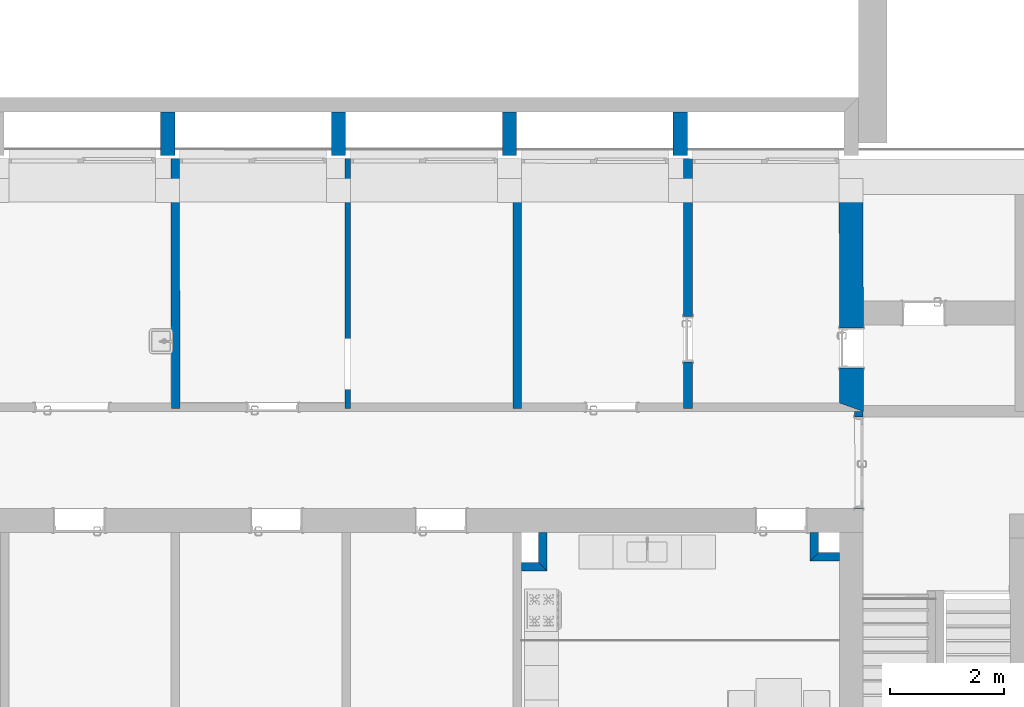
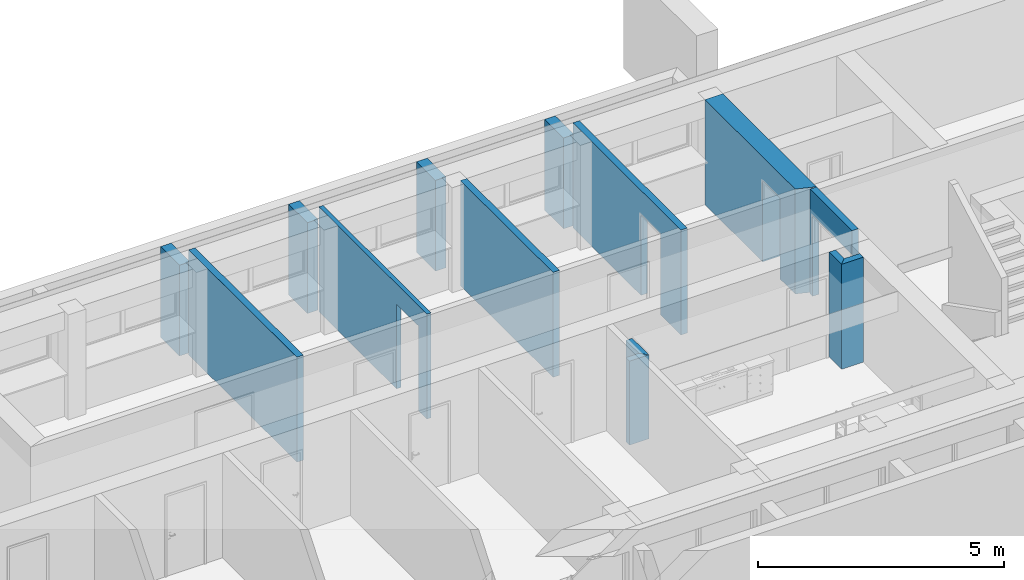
# One storey, part 9 of 127: 14 walls, 4 openings.
"""IFC2X3 building model written with IfcOpenShell, lengths in millimetres."""

import ifcopenshell
import ifcopenshell.guid

model = None  # the IFC model being written
_history = None  # IfcOwnerHistory: only IFC2X3 demands one
_inside = {}  # id of a spatial element -> (the spatial element, [elements in it])
_under = {}  # id of a project, library or spatial element -> (it, [spatial elements below it])
_declared = {}  # id of a project -> (the project, [libraries it declares])
_typed = {}  # id of a type object -> (the type object, [elements of that type])
_made_of = {}  # id of a material, layer set ... -> (it, [elements and type objects made of it])


def new_model(schema):
    """Start an empty IFC model of exactly this schema.

    Asked for "IFC4X3", IfcOpenShell would pick the latest addendum, in which some entities
    have other attributes; the version numbers below select the first issue.
    IFC2X3 requires an IfcOwnerHistory on every rooted entity: one is made here for all.
    """
    global model, _history
    if schema == "IFC4X3":
        model = ifcopenshell.file(schema_version=(4, 3, 0, 0))
    else:
        model = ifcopenshell.file(schema=schema)
    _inside.clear()
    _under.clear()
    _declared.clear()
    _typed.clear()
    _made_of.clear()
    _history = None
    if model.schema == "IFC2X3":
        org = make("IfcOrganization", Name="unknown")
        user = make(
            "IfcPersonAndOrganization",
            ThePerson=make("IfcPerson", FamilyName="unknown"),
            TheOrganization=org,
        )
        app = make(
            "IfcApplication",
            ApplicationDeveloper=org,
            Version="unknown",
            ApplicationFullName="unknown",
            ApplicationIdentifier="unknown",
        )
        _history = make(
            "IfcOwnerHistory",
            OwningUser=user,
            OwningApplication=app,
            ChangeAction="ADDED",
            CreationDate=0,
        )
    return model


def make(cls, **values):
    """One entity of the class cls with the attributes given. An attribute that is None is left unset."""
    return model.create_entity(
        cls, **{name: value for name, value in values.items() if value is not None}
    )


def entity(cls, *values):
    """Any entity or typed value of the class cls, its attributes in the order of the schema. None: left unset."""
    e = model.create_entity(cls)
    for i, value in enumerate(values):
        if value is not None:
            e[i] = value
    return e


def rooted(cls, **values):
    """An entity with a GlobalId (a new one), such as an element, a storey or a relation."""
    return make(cls, GlobalId=ifcopenshell.guid.new(), OwnerHistory=_history, **values)


def si_unit(unit_type, name, prefix=None):
    """IfcSIUnit, for example si_unit("LENGTHUNIT", "METRE", prefix="MILLI")."""
    return make("IfcSIUnit", UnitType=unit_type, Prefix=prefix, Name=name)


def converted_unit(unit_type, name, factor, base, dimensions=None, offset=None):
    """IfcConversionBasedUnit, such as the inch: factor (a typed value) times the base unit."""
    return make(
        "IfcConversionBasedUnit"
        if offset is None
        else "IfcConversionBasedUnitWithOffset",
        ConversionOffset=offset,
        Dimensions=None
        if dimensions is None
        else entity("IfcDimensionalExponents", *dimensions),
        UnitType=unit_type,
        Name=name,
        ConversionFactor=make(
            "IfcMeasureWithUnit", ValueComponent=factor, UnitComponent=base
        ),
    )


def derived_unit(unit_type, elements):
    """IfcDerivedUnit: a product of units, each with its exponent."""
    return make(
        "IfcDerivedUnit",
        Elements=[
            make("IfcDerivedUnitElement", Unit=unit, Exponent=power)
            for unit, power in elements
        ],
        UnitType=unit_type,
    )


def money_unit(currency):
    """IfcMonetaryUnit."""
    return make("IfcMonetaryUnit", Currency=currency)


def assignment(units):
    """IfcUnitAssignment: the units of a project."""
    return None if units is None else make("IfcUnitAssignment", Units=units)


def point(xyz):
    """IfcCartesianPoint."""
    return None if xyz is None else make("IfcCartesianPoint", Coordinates=xyz)


def direction(xyz):
    """IfcDirection."""
    return None if xyz is None else make("IfcDirection", DirectionRatios=xyz)


def frame(location, z_axis=None, x_axis=None):
    """IfcAxis2Placement3D, a coordinate frame: its origin and axes. An axis left out is left unset."""
    return make(
        "IfcAxis2Placement3D",
        Location=point(location),
        Axis=direction(z_axis),
        RefDirection=direction(x_axis),
    )


def frame_2d(location, x_axis=None):
    """IfcAxis2Placement2D, a coordinate frame in the plane: its origin and x axis."""
    return make(
        "IfcAxis2Placement2D", Location=point(location), RefDirection=direction(x_axis)
    )


def origin_with_axes():
    """The frame at (0, 0, 0) with the z axis (0, 0, 1) and the x axis (1, 0, 0) written out."""
    return frame((0.0, 0.0, 0.0), z_axis=(0.0, 0.0, 1.0), x_axis=(1.0, 0.0, 0.0))


def origin_2d_with_axis():
    """The frame at (0, 0) in the plane with the x axis (1, 0) written out."""
    return frame_2d((0.0, 0.0), x_axis=(1.0, 0.0))


def place(relative_to, where):
    """IfcLocalPlacement: puts the frame where relative to a parent placement (None: the world)."""
    return make(
        "IfcLocalPlacement", PlacementRelTo=relative_to, RelativePlacement=where
    )


def context(
    kind, dimensions, precision=None, world=None, true_north=None, identifier=None
):
    """IfcGeometricRepresentationContext, for example the 3D "Model" context."""
    return make(
        "IfcGeometricRepresentationContext",
        ContextIdentifier=identifier,
        ContextType=kind,
        CoordinateSpaceDimension=dimensions,
        Precision=precision,
        WorldCoordinateSystem=world,
        TrueNorth=true_north,
    )


def subcontext(parent, identifier, kind, view, scale=None):
    """IfcGeometricRepresentationSubContext, for example "Body" below "Model"."""
    return make(
        "IfcGeometricRepresentationSubContext",
        ContextIdentifier=identifier,
        ContextType=kind,
        ParentContext=parent,
        TargetScale=scale,
        TargetView=view,
    )


def project(units=None, contexts=None):
    """IfcProject with its units and contexts."""
    return rooted(
        "IfcProject",
        Name="project",
        RepresentationContexts=contexts,
        UnitsInContext=assignment(units),
    )


def spatial(cls, under=None, at=None, **own):
    """A site, building, storey or space (cls), placed at a placement, below another one or the project."""
    s = rooted(cls, ObjectPlacement=at, **own)
    if under is not None:
        _under.setdefault(under.id(), (under, []))[1].append(s)
    return s


def polyline(points):
    """IfcPolyline through the points."""
    return make("IfcPolyline", Points=[point(p) for p in points])


def profile(cls, at=None, kind="AREA", **sizes):
    """A parametric profile (cls). Its sizes go by their IFC names, for example OverallWidth=200.0."""
    return make(cls, ProfileType=kind, Position=at, **sizes)


def rectangle(**sizes):
    """IfcRectangleProfileDef."""
    return profile("IfcRectangleProfileDef", **sizes)


def outline(outer, holes=None, kind="AREA"):
    """IfcArbitraryClosedProfileDef: a profile drawn as a closed curve; with holes, ...WithVoids."""
    if holes is None:
        return make("IfcArbitraryClosedProfileDef", ProfileType=kind, OuterCurve=outer)
    return make(
        "IfcArbitraryProfileDefWithVoids",
        ProfileType=kind,
        OuterCurve=outer,
        InnerCurves=holes,
    )


def extrude(swept, where, along, depth):
    """IfcExtrudedAreaSolid: the profile swept, set in the frame where, extruded along a direction by depth."""
    return make(
        "IfcExtrudedAreaSolid",
        SweptArea=swept,
        Position=where,
        ExtrudedDirection=direction(along),
        Depth=depth,
    )


def shape(context_of_items, identifier, shape_type, items):
    """IfcShapeRepresentation: the items that make up one representation, for example the "Body"."""
    return make(
        "IfcShapeRepresentation",
        ContextOfItems=context_of_items,
        RepresentationIdentifier=identifier,
        RepresentationType=shape_type,
        Items=items,
    )


def material(Name=None, Category=None):
    """IfcMaterial."""
    return make("IfcMaterial", Name=Name, Category=Category)


def layer(
    of_material, thickness, ventilated=None, Name=None, Category=None, Priority=None
):
    """IfcMaterialLayer: one layer of a wall or slab, of a material (None: an air gap)."""
    return make(
        "IfcMaterialLayer",
        Material=of_material,
        LayerThickness=thickness,
        IsVentilated=ventilated,
        Name=Name,
        Category=Category,
        Priority=Priority,
    )


def layer_set(layers, Name=None):
    """IfcMaterialLayerSet."""
    return make("IfcMaterialLayerSet", MaterialLayers=layers, LayerSetName=Name)


def layer_usage(for_layer_set, set_direction, sense, offset, extent=None):
    """IfcMaterialLayerSetUsage: how a layer set lies in its element."""
    return make(
        "IfcMaterialLayerSetUsage",
        ForLayerSet=for_layer_set,
        LayerSetDirection=set_direction,
        DirectionSense=sense,
        OffsetFromReferenceLine=offset,
        ReferenceExtent=extent,
    )


def made_of(thing, what):
    """Note that an element or type object is made of a material, layer set ...; save() writes the relation."""
    if what is not None:
        _made_of.setdefault(what.id(), (what, []))[1].append(thing)
    return thing


def type_object(cls, material=None, **own):
    """A type object (cls), such as IfcWallType, which elements share."""
    return made_of(rooted(cls, **own), material)


def element(
    cls,
    number,
    at=None,
    inside=None,
    cuts=None,
    type_object=None,
    material=None,
    context=None,
    identifier="Body",
    shape_type=None,
    held_by="IfcProductDefinitionShape",
    body=None,
    shapes=None,
    **own,
):
    """One element of the class cls, such as IfcWall. Its Tag is "e" and its number.

    at: its placement. inside: the storey or other place that contains it. cuts: it is an
    opening in that element (IfcRelVoidsElement). A single representation is given by context,
    identifier, shape_type and body (its items); several are given by shapes. held_by: the class
    of the entity that holds the representations. save() writes the other relations.
    """
    e = rooted(cls, Tag="e%d" % number, ObjectPlacement=at, **own)
    if body is not None:
        shapes = [shape(context, identifier, shape_type, body)]
    if shapes is not None:
        e.Representation = make(held_by, Representations=shapes)
    if inside is not None:
        _inside.setdefault(inside.id(), (inside, []))[1].append(e)
    if cuts is not None:
        rooted(
            "IfcRelVoidsElement", RelatingBuildingElement=cuts, RelatedOpeningElement=e
        )
    if type_object is not None:
        _typed.setdefault(type_object.id(), (type_object, []))[1].append(e)
    return made_of(e, material)


def aggregate(whole, parts):
    """IfcRelAggregates: a whole, such as a stair, and the parts it consists of."""
    return rooted("IfcRelAggregates", RelatingObject=whole, RelatedObjects=parts)


def save(model, path):
    """Write the relations noted so far, then the file.

    IfcRelAggregates (storeys below a building ...), IfcRelContainedInSpatialStructure (elements
    in a storey), IfcRelDefinesByType, IfcRelAssociatesMaterial and IfcRelDeclares: one each for
    every whole, place, type object, material and project.
    """
    for whole, parts in _under.values():
        aggregate(whole, parts)
    for where, things in _inside.values():
        rooted(
            "IfcRelContainedInSpatialStructure",
            RelatedElements=things,
            RelatingStructure=where,
        )
    for kind, things in _typed.values():
        rooted("IfcRelDefinesByType", RelatedObjects=things, RelatingType=kind)
    for what, things in _made_of.values():
        rooted("IfcRelAssociatesMaterial", RelatedObjects=things, RelatingMaterial=what)
    for by, libraries in _declared.values():
        rooted("IfcRelDeclares", RelatingContext=by, RelatedDefinitions=libraries)
    model.write(path)


model = new_model("IFC2X3")

# Units and contexts
model_context = context("Model", 3, precision=1e-05, world=origin_with_axes(), true_north=direction((0.0, 1.0)))
body_context = subcontext(model_context, "Body", "Model", "MODEL_VIEW")
ifc_project = project(units=[si_unit("LENGTHUNIT", "METRE", prefix="MILLI"), si_unit("AREAUNIT", "SQUARE_METRE"), si_unit("VOLUMEUNIT", "CUBIC_METRE"), converted_unit("PLANEANGLEUNIT", "DEGREE", entity("IfcPlaneAngleMeasure", 0.0174532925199), si_unit("PLANEANGLEUNIT", "RADIAN"), dimensions=[0, 0, 0, 0, 0, 0, 0]), si_unit("SOLIDANGLEUNIT", "STERADIAN"), money_unit("EUR"), converted_unit("TIMEUNIT", "Year", entity("IfcTimeMeasure", 31556926.0), si_unit("TIMEUNIT", "SECOND"), dimensions=[0, 0, 1, 0, 0, 0, 0]), si_unit("MASSUNIT", "GRAM", prefix="KILO"), si_unit("THERMODYNAMICTEMPERATUREUNIT", "DEGREE_CELSIUS"), si_unit("LUMINOUSINTENSITYUNIT", "LUMEN"), si_unit("ENERGYUNIT", "JOULE", prefix="MEGA"), derived_unit("THERMALCONDUCTANCEUNIT", [(si_unit("POWERUNIT", "WATT"), 1), (si_unit("LENGTHUNIT", "METRE"), -1), (si_unit("THERMODYNAMICTEMPERATUREUNIT", "KELVIN"), -1)]), derived_unit("SPECIFICHEATCAPACITYUNIT", [(si_unit("ENERGYUNIT", "JOULE"), 1), (si_unit("MASSUNIT", "GRAM", prefix="KILO"), -1), (si_unit("THERMODYNAMICTEMPERATUREUNIT", "KELVIN"), -1)]), derived_unit("MASSDENSITYUNIT", [(si_unit("MASSUNIT", "GRAM", prefix="KILO"), 1), (si_unit("VOLUMEUNIT", "CUBIC_METRE"), -1)])], contexts=[model_context])

# Site, building, storey
site_placement = place(None, origin_with_axes())
site = spatial("IfcSite", under=ifc_project, at=site_placement, Name="Site", CompositionType="ELEMENT")
building_placement = place(site_placement, origin_with_axes())
building = spatial("IfcBuilding", under=site, at=building_placement, Name="Building", CompositionType="ELEMENT")
storey_placement = place(building_placement, origin_with_axes())
storey = spatial("IfcBuildingStorey", under=building, at=storey_placement, Name="1 KORRUS", CompositionType="ELEMENT", Elevation=0.0)

# Walls
ifc_material_1 = material(Name="Kivi - Ol.Olev Konstruktsioon")
ifc_layer_1 = layer(ifc_material_1, 250.0, ventilated="UNKNOWN")
ifc_layer_set_1 = layer_set([ifc_layer_1], Name="Ol.olve tugimüür 250")
ifc_layer_usage_1 = layer_usage(ifc_layer_set_1, "AXIS2", "POSITIVE", -125.0)
wall_type_1 = type_object("IfcWallType", Name="SW - 028", PredefinedType="NOTDEFINED")
wall_1_placement = place(storey_placement, frame((54944.5004847, 47302.325893, 0.0), z_axis=(0.0, 0.0, 1.0), x_axis=(0.000248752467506, 0.999999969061, 0.0)))
element("IfcWallStandardCase", 1, at=wall_1_placement, inside=storey, type_object=wall_type_1, material=ifc_layer_usage_1, Name="Ol.olve tugimüür 250", context=body_context, shape_type="SweptSolid", body=[
    extrude(outline(polyline([(0.0, -125.0), (762.935156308, -125.0), (762.87296819, 125.0), (0.0, 125.0), (0.0, -125.0)])), origin_with_axes(), (0.0, 0.0, 1.0), 2250.0),
])
ifc_layer_usage_2 = layer_usage(ifc_layer_set_1, "AXIS2", "POSITIVE", -125.0)
wall_2_placement = place(storey_placement, frame((51944.5003919, 47302.325893, 0.0), z_axis=(0.0, 0.0, 1.0), x_axis=(0.000248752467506, 0.999999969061, 0.0)))
element("IfcWallStandardCase", 2, at=wall_2_placement, inside=storey, type_object=wall_type_1, material=ifc_layer_usage_2, Name="Ol.olve tugimüür 250", context=body_context, shape_type="SweptSolid", body=[
    extrude(outline(polyline([(0.0, -125.0), (762.935156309, -125.0), (762.87296819, 125.0), (0.0, 125.0), (0.0, -125.0)])), origin_with_axes(), (0.0, 0.0, 1.0), 2250.0),
])
ifc_layer_usage_3 = layer_usage(ifc_layer_set_1, "AXIS2", "POSITIVE", -125.0)
wall_3_placement = place(storey_placement, frame((57944.5005776, 47302.325893, 0.0), z_axis=(0.0, 0.0, 1.0), x_axis=(0.000248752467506, 0.999999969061, 0.0)))
element("IfcWallStandardCase", 3, at=wall_3_placement, inside=storey, type_object=wall_type_1, material=ifc_layer_usage_3, Name="Ol.olve tugimüür 250", context=body_context, shape_type="SweptSolid", body=[
    extrude(outline(polyline([(0.0, -125.0), (762.935156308, -125.0), (762.872968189, 125.0), (0.0, 125.0), (0.0, -125.0)])), origin_with_axes(), (0.0, 0.0, 1.0), 2250.0),
])
ifc_layer_usage_4 = layer_usage(ifc_layer_set_1, "AXIS2", "POSITIVE", -125.0)
wall_4_placement = place(storey_placement, frame((48944.5002991, 47302.325893, 0.0), z_axis=(0.0, 0.0, 1.0), x_axis=(0.000248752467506, 0.999999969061, 0.0)))
element("IfcWallStandardCase", 4, at=wall_4_placement, inside=storey, type_object=wall_type_1, material=ifc_layer_usage_4, Name="Ol.olve tugimüür 250", context=body_context, shape_type="SweptSolid", body=[
    extrude(outline(polyline([(0.0, -125.0), (762.935156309, -125.0), (762.87296819, 125.0), (9.09494701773e-10, 125.0), (0.0, -125.0)])), origin_with_axes(), (0.0, 0.0, 1.0), 2250.0),
])

# Wall, opening
ifc_material_2 = material(Name="Kivi -Ol.Olev Konstruktsioon")
ifc_layer_2 = layer(ifc_material_2, 100.0, ventilated="UNKNOWN")
ifc_layer_set_2 = layer_set([ifc_layer_2], Name="ol.olev ss 100")
ifc_layer_usage_5 = layer_usage(ifc_layer_set_2, "AXIS2", "NEGATIVE", 0.0)
wall_type_2 = type_object("IfcWallType", Name="SW - 036", PredefinedType="NOTDEFINED")
wall_5_placement = place(storey_placement, frame((52154.3292711, 47243.6716363, 0.0), z_axis=(0.0, 0.0, 1.0), x_axis=(0.0, -1.0, 0.0)))
wall_5 = element("IfcWallStandardCase", 5, at=wall_5_placement, inside=storey, type_object=wall_type_2, material=ifc_layer_usage_5, Name="ol.olev ss 100", context=body_context, shape_type="SweptSolid", body=[
    extrude(outline(polyline([(0.0, -100.0), (4387.15956942, -100.0), (4387.15956942, 0.0), (0.0, 0.0), (0.0, -100.0)])), origin_with_axes(), (0.0, 0.0, 1.0), 2600.0),
])
opening_1_placement = place(wall_5_placement, frame((3603.31585133, 0.0, 0.0), z_axis=(0.0, 0.0, 1.0), x_axis=(1.0, 0.0, 0.0)))
element("IfcOpeningElement", 6, at=opening_1_placement, cuts=wall_5, Name="Background;  Objekti nimi: Rectangular Door Opening 22", context=body_context, shape_type="SweptSolid", body=[
    extrude(rectangle(XDim=900.0, YDim=2100.0, at=origin_2d_with_axis()), frame((0.0, -100.0, 1050.0), z_axis=(0.0, -1.0, 0.0), x_axis=(1.0, 0.0, 0.0)), (0.0, 0.0, -1.0), 300.0),
])

# Wall
ifc_layer_3 = layer(ifc_material_2, 150.0, ventilated="UNKNOWN")
ifc_layer_set_3 = layer_set([ifc_layer_3], Name="ol.olev ss 150")
ifc_layer_usage_6 = layer_usage(ifc_layer_set_3, "AXIS2", "NEGATIVE", 0.0)
wall_6_placement = place(storey_placement, frame((49153.3880206, 47244.4520916, 0.0), z_axis=(0.0, 0.0, 1.0), x_axis=(0.0012176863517, -0.99999925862, 0.0)))
element("IfcWallStandardCase", 7, at=wall_6_placement, inside=storey, type_object=wall_type_2, material=ifc_layer_usage_6, Name="ol.olev ss 150", context=body_context, shape_type="SweptSolid", body=[
    extrude(outline(polyline([(0.0, -150.0), (4387.94327778, -150.0), (4387.94327778, 0.0), (0.0, 0.0), (0.0, -150.0)])), origin_with_axes(), (0.0, 0.0, 1.0), 2600.0),
])

# Wall, opening
ifc_layer_usage_7 = layer_usage(ifc_layer_set_3, "AXIS2", "NEGATIVE", 0.0)
wall_7_placement = place(storey_placement, frame((58154.3292711, 47242.1726063, 0.0), z_axis=(0.0, 0.0, 1.0), x_axis=(0.0, -1.0, 0.0)))
wall_7 = element("IfcWallStandardCase", 8, at=wall_7_placement, inside=storey, type_object=wall_type_2, material=ifc_layer_usage_7, Name="ol.olev ss 150", context=body_context, shape_type="SweptSolid", body=[
    extrude(outline(polyline([(0.0, -150.0), (4385.66053938, -150.0), (4385.66053938, 0.0), (0.0, 0.0), (0.0, -150.0)])), origin_with_axes(), (0.0, 0.0, 1.0), 2600.0),
])
opening_2_placement = place(wall_7_placement, frame((3165.65622186, 0.0, 0.0), z_axis=(0.0, 0.0, 1.0), x_axis=(1.0, 0.0, 0.0)))
element("IfcOpeningElement", 9, at=opening_2_placement, cuts=wall_7, Name="Siseuks * Door 22", context=body_context, shape_type="SweptSolid", body=[
    extrude(rectangle(XDim=799.999999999, YDim=2000.0, at=origin_2d_with_axis()), frame((0.0, -150.0, 1000.0), z_axis=(0.0, -1.0, 0.0), x_axis=(1.0, 0.0, 0.0)), (0.0, 0.0, -1.0), 450.0),
    extrude(rectangle(XDim=874.0, YDim=2037.0, at=origin_2d_with_axis()), frame((0.0, -150.0, 1018.5), z_axis=(0.0, -1.0, 0.0), x_axis=(1.0, 0.0, 0.0)), (0.0, 0.0, 1.0), 150.0),
    extrude(rectangle(XDim=874.0, YDim=2037.0, at=origin_2d_with_axis()), frame((0.0, 0.0, 1018.5), z_axis=(0.0, 1.0, 0.0), x_axis=(1.0, 0.0, 0.0)), (0.0, 0.0, 1.0), 150.0),
])

# Wall
ifc_layer_usage_8 = layer_usage(ifc_layer_set_3, "AXIS2", "NEGATIVE", 0.0)
wall_8_placement = place(storey_placement, frame((55154.5211682, 47242.9078439, 0.0), z_axis=(0.0, 0.0, 1.0), x_axis=(0.00120319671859, -0.999999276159, 0.0)))
element("IfcWallStandardCase", 10, at=wall_8_placement, inside=storey, type_object=wall_type_2, material=ifc_layer_usage_8, Name="ol.olev ss 150", context=body_context, shape_type="SweptSolid", body=[
    extrude(outline(polyline([(629.782871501, -150.0), (4386.41375586, -150.0), (4386.41375586, -1.13686837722e-10), (630.000664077, -1.13686837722e-10), (629.782871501, -150.0)])), origin_with_axes(), (0.0, 0.0, 1.0), 2600.0),
])

# Wall, opening
ifc_layer_4 = layer(ifc_material_2, 420.0, ventilated="UNKNOWN")
ifc_layer_set_4 = layer_set([ifc_layer_4], Name="ol.olev ss 420")
ifc_layer_usage_9 = layer_usage(ifc_layer_set_4, "AXIS2", "POSITIVE", 0.0)
wall_9_placement = place(storey_placement, frame((61158.906204, 42953.8718916, 0.0), z_axis=(0.0, 0.0, 1.0), x_axis=(-0.00143580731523, 0.999998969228, 0.0)))
wall_9 = element("IfcWallStandardCase", 11, at=wall_9_placement, inside=storey, type_object=wall_type_2, material=ifc_layer_usage_9, Name="ol.olev ss 420", context=body_context, shape_type="SweptSolid", body=[
    extrude(outline(polyline([(-150.000154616, 0.0), (3657.54740359, 0.0), (3658.25491958, 420.0), (0.603039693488, 420.0), (-150.000154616, 0.0)])), origin_with_axes(), (0.0, 0.0, 1.0), 2600.0),
])
opening_3_placement = place(wall_9_placement, frame((964.921937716, 1.13686837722e-10, 0.0), z_axis=(0.0, 0.0, 1.0), x_axis=(1.0, 0.0, 0.0)))
element("IfcOpeningElement", 12, at=opening_3_placement, cuts=wall_9, Name="Siseuks * Door 22", context=body_context, shape_type="SweptSolid", body=[
    extrude(rectangle(XDim=699.999999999, YDim=2000.0, at=origin_2d_with_axis()), frame((9.09494701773e-10, 280.0, 1000.0), z_axis=(0.0, -1.0, 0.0), x_axis=(-1.0, 0.0, 0.0)), (0.0, 0.0, 1.0), 700.0),
    extrude(rectangle(XDim=700.000000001, YDim=2000.0, at=origin_2d_with_axis()), frame((-9.09494701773e-10, 280.0, 1000.0), z_axis=(0.0, 1.0, 0.0), x_axis=(-1.0, 0.0, 0.0)), (0.0, 0.0, 1.0), 560.0),
    extrude(rectangle(XDim=774.0, YDim=2037.0, at=origin_2d_with_axis()), frame((0.0, 420.0, 1018.5), z_axis=(0.0, 1.0, 0.0), x_axis=(-1.0, 0.0, 0.0)), (0.0, 0.0, 1.0), 700.0),
    extrude(rectangle(XDim=774.000000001, YDim=2037.0, at=origin_2d_with_axis()), frame((9.09494701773e-10, 0.0, 1018.5), z_axis=(0.0, -1.0, 0.0), x_axis=(-1.0, 0.0, 0.0)), (0.0, 0.0, 1.0), 700.0),
])

ifc_material_3 = material(Name="Kivi -  Uus Konstruktsioon")
ifc_layer_5 = layer(ifc_material_3, 150.0, ventilated="UNKNOWN")
ifc_layer_set_5 = layer_set([ifc_layer_5], Name="uus ss 150")
ifc_layer_usage_10 = layer_usage(ifc_layer_set_5, "AXIS2", "POSITIVE", 0.0)
wall_type_3 = type_object("IfcWallType", Name="SS-3", PredefinedType="NOTDEFINED")
wall_10_placement = place(storey_placement, frame((61003.0967079, 42953.8718916, 0.0), z_axis=(0.0, 0.0, 1.0), x_axis=(0.0, -1.0, 0.0)))
wall_10 = element("IfcWallStandardCase", 13, at=wall_10_placement, inside=storey, type_object=wall_type_3, material=ifc_layer_usage_10, Name="uus ss 150", context=body_context, shape_type="SweptSolid", body=[
    extrude(outline(polyline([(150.0, 0.0), (1852.24762178, 0.0), (1852.24762178, 150.0), (150.0, 150.0), (150.0, 0.0)])), origin_with_axes(), (0.0, 0.0, 1.0), 2600.0),
])
opening_4_placement = place(wall_10_placement, frame((1047.35982506, 0.0, 0.0), z_axis=(0.0, 0.0, 1.0), x_axis=(1.0, 0.0, 0.0)))
element("IfcOpeningElement", 14, at=opening_4_placement, cuts=wall_10, Name="Siseuks * Double Door 22", context=body_context, shape_type="SweptSolid", body=[
    extrude(rectangle(XDim=1600.0, YDim=2000.0, at=origin_2d_with_axis()), frame((0.0, -150.0, 1000.0), z_axis=(0.0, -1.0, 0.0), x_axis=(-1.0, 0.0, 0.0)), (0.0, 0.0, -1.0), 450.0),
    extrude(rectangle(XDim=1674.0, YDim=2037.0, at=origin_2d_with_axis()), frame((0.0, 0.0, 1018.5), z_axis=(0.0, -1.0, 0.0), x_axis=(-1.0, 0.0, 0.0)), (0.0, 0.0, 1.0), 150.0),
    extrude(rectangle(XDim=1674.0, YDim=2037.0, at=origin_2d_with_axis()), frame((0.0, 150.0, 1018.5), z_axis=(0.0, 1.0, 0.0), x_axis=(-1.0, 0.0, 0.0)), (0.0, 0.0, 1.0), 150.0),
])

# Walls
ifc_layer_usage_11 = layer_usage(ifc_layer_set_5, "AXIS2", "NEGATIVE", 0.0)
wall_type_4 = type_object("IfcWallType", Name="SS-1", PredefinedType="NOTDEFINED")
wall_11_placement = place(storey_placement, frame((60370.7594544, 40326.5933947, 0.0), z_axis=(0.0, 0.0, 1.0), x_axis=(1.0, 0.0, 0.0)))
element("IfcWallStandardCase", 15, at=wall_11_placement, inside=storey, type_object=wall_type_4, material=ifc_layer_usage_11, Name="sahti sein", context=body_context, shape_type="SweptSolid", body=[
    extrude(outline(polyline([(-150.0, -150.0), (364.414837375, -150.0), (364.414837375, 0.0), (0.0, 0.0), (-150.0, -150.0)])), origin_with_axes(), (0.0, 0.0, 1.0), 2600.0),
])
ifc_layer_usage_12 = layer_usage(ifc_layer_set_5, "AXIS2", "NEGATIVE", 0.0)
wall_12_placement = place(storey_placement, frame((60370.7594544, 41101.6242698, 0.0), z_axis=(0.0, 0.0, 1.0), x_axis=(0.0, -1.0, 0.0)))
element("IfcWallStandardCase", 16, at=wall_12_placement, inside=storey, type_object=wall_type_4, material=ifc_layer_usage_12, Name="sahti sein", context=body_context, shape_type="SweptSolid", body=[
    extrude(outline(polyline([(420.0, -150.0), (925.030875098, -150.0), (775.030875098, 0.0), (420.0, 0.0), (420.0, -150.0)])), origin_with_axes(), (0.0, 0.0, 1.0), 2600.0),
])
ifc_layer_usage_13 = layer_usage(ifc_layer_set_5, "AXIS2", "NEGATIVE", 0.0)
wall_type_5 = type_object("IfcWallType", Name="SS-1*", PredefinedType="NOTDEFINED")
wall_13_placement = place(storey_placement, frame((55608.0094614, 40002.6055515, 0.0), z_axis=(0.0, 0.0, 1.0), x_axis=(-0.999999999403, 3.4551286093e-05, 0.0)))
element("IfcWallStandardCase", 17, at=wall_13_placement, inside=storey, type_object=wall_type_5, material=ifc_layer_usage_13, Name="sahti sein", context=body_context, shape_type="SweptSolid", body=[
    extrude(outline(polyline([(150.005182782, -150.0), (452.66859329, -150.0), (452.668593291, 0.0), (0.0, 0.0), (150.005182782, -150.0)])), origin_with_axes(), (0.0, 0.0, 1.0), 2079.69860333),
])
ifc_layer_usage_14 = layer_usage(ifc_layer_set_5, "AXIS2", "NEGATIVE", 0.0)
wall_14_placement = place(storey_placement, frame((55608.0094614, 41101.6242698, 0.0), z_axis=(0.0, 0.0, 1.0), x_axis=(0.0, -1.0, 0.0)))
element("IfcWallStandardCase", 18, at=wall_14_placement, inside=storey, type_object=wall_type_5, material=ifc_layer_usage_14, Name="sahti sein", context=body_context, shape_type="SweptSolid", body=[
    extrude(outline(polyline([(420.0, -150.0), (949.013535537, -150.0), (1099.01871832, 0.0), (420.0, 0.0), (420.0, -150.0)])), origin_with_axes(), (0.0, 0.0, 1.0), 2079.69860333),
])

save(model, "model.ifc")
